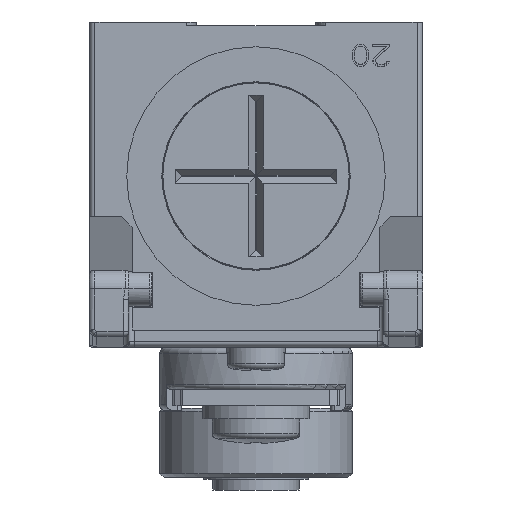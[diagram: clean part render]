
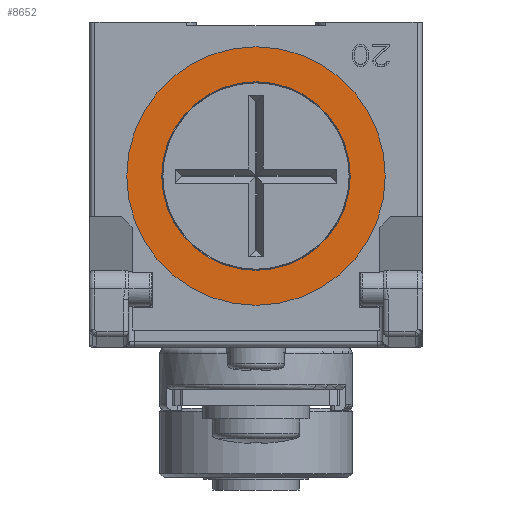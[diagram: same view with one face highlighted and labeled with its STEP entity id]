
A CAD part, front view. The second image highlights one B-rep face of the part: STEP entity #8652.
In plain terms, the highlighted planar face has unit normal (0, -1, 0) as drawn and (-1, 0, 0) by its records, which use the part's own axes.
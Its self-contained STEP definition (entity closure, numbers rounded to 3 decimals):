
#1351=FACE_BOUND('',#13552,.T.);
#1352=FACE_BOUND('',#13553,.T.);
#8652=ADVANCED_FACE('',(#1351,#1352),#10612,.F.);
#10612=PLANE('',#37884);
#13552=EDGE_LOOP('',(#15652,#15653));
#13553=EDGE_LOOP('',(#15654,#15655));
#15652=ORIENTED_EDGE('',*,*,#30539,.F.);
#15653=ORIENTED_EDGE('',*,*,#30537,.T.);
#15654=ORIENTED_EDGE('',*,*,#30540,.T.);
#15655=ORIENTED_EDGE('',*,*,#30541,.T.);
#26820=VERTEX_POINT('',#52561);
#26821=VERTEX_POINT('',#52563);
#26822=VERTEX_POINT('',#52569);
#26823=VERTEX_POINT('',#52570);
#30537=EDGE_CURVE('',#26821,#26820,#36125,.T.);
#30539=EDGE_CURVE('',#26821,#26820,#36126,.T.);
#30540=EDGE_CURVE('',#26822,#26823,#36127,.T.);
#30541=EDGE_CURVE('',#26823,#26822,#36128,.T.);
#36125=CIRCLE('',#37878,12.);
#36126=CIRCLE('',#37880,12.);
#36127=CIRCLE('',#37882,8.75);
#36128=CIRCLE('',#37883,8.75);
#37878=AXIS2_PLACEMENT_3D('',#52562,#41637,#41638);
#37880=AXIS2_PLACEMENT_3D('',#52566,#41642,#41643);
#37882=AXIS2_PLACEMENT_3D('',#52568,#41646,#41647);
#37883=AXIS2_PLACEMENT_3D('',#52571,#41648,#41649);
#37884=AXIS2_PLACEMENT_3D('',#52572,#41650,#41651);
#41637=DIRECTION('',(-1.,0.,0.));
#41638=DIRECTION('',(0.,1.,0.));
#41642=DIRECTION('',(1.,0.,0.));
#41643=DIRECTION('',(0.,1.,0.));
#41646=DIRECTION('',(1.,0.,0.));
#41647=DIRECTION('',(0.,-1.,0.));
#41648=DIRECTION('',(1.,0.,0.));
#41649=DIRECTION('',(0.,1.,0.));
#41650=DIRECTION('',(1.,0.,0.));
#41651=DIRECTION('',(0.,-1.,0.));
#52561=CARTESIAN_POINT('',(0.,-12.,0.));
#52562=CARTESIAN_POINT('',(0.,0.,0.));
#52563=CARTESIAN_POINT('',(0.,12.,0.));
#52566=CARTESIAN_POINT('',(0.,0.,0.));
#52568=CARTESIAN_POINT('',(0.,0.,0.));
#52569=CARTESIAN_POINT('',(0.,-8.75,0.));
#52570=CARTESIAN_POINT('',(0.,8.75,0.));
#52571=CARTESIAN_POINT('',(0.,0.,0.));
#52572=CARTESIAN_POINT('',(0.,0.,0.));
